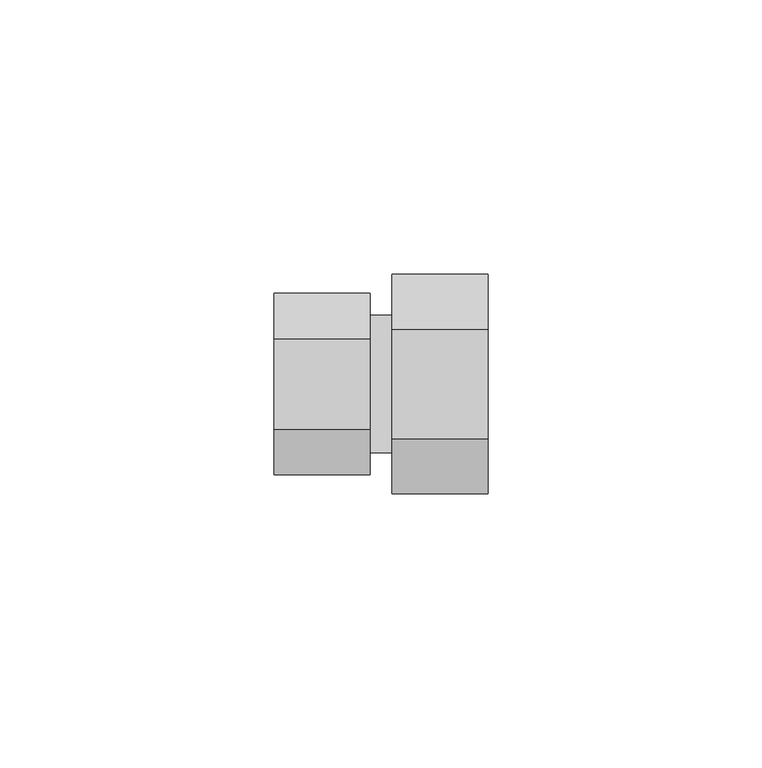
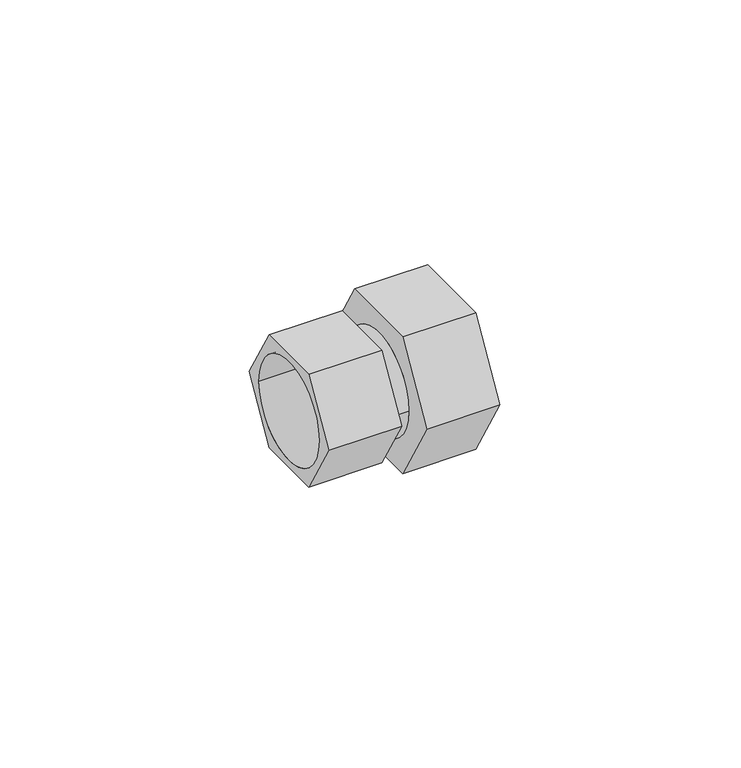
"""IFC4 building model written with IfcOpenShell, lengths in millimetres: pipe fitting geometry, БИР ПЕКС_КМП_Соединитель_Резьба_Внутренняя : Соединитель прямой с внутренней резьбой_КМП."""

from ifc_helpers import new_model, si_unit, point, frame, origin, origin_2d, place, context, project, spatial, polyline, circle_curve, trimmed, segment, composite_curve, outline, extrude, source, transform, mapped, element, save


def pipe_fitting_7a30f251(model_context):
    return source(origin(), model_context, "Body", "SweptSolid", [
        extrude(outline(polyline([(-8.25, -14.2894192), (-16.5, 0.0), (-8.25, 14.2894192), (8.25, 14.2894192), (16.5, 0.0), (8.25, -14.2894192), (-8.25, -14.2894192)]), holes=[composite_curve([segment(trimmed(circle_curve(origin_2d(), 12.5), [point((-12.5, 0.0))], [point((12.5, 0.0))], True, "CARTESIAN"), True, "CONTINUOUS"), segment(trimmed(circle_curve(origin_2d(), 12.5), [point((12.5, 0.0))], [point((-12.5, 0.0))], True, "CARTESIAN"), True, "CONTINUOUS")], self_intersect=False)]), frame((-21.5, 0.0, 0.0), z_axis=(1.0, 0.0, 0.0), x_axis=(0.0, 1.0, 0.0)), (0.0, 0.0, 1.0), 17.5),
        extrude(outline(polyline([(-10.0, -17.3205081), (-20.0, 0.0), (-10.0, 17.3205081), (10.0, 17.3205081), (20.0, 0.0), (10.0, -17.3205081), (-10.0, -17.3205081)]), holes=[composite_curve([segment(trimmed(circle_curve(origin_2d(), 12.5), [point((-12.5, 0.0))], [point((12.5, 0.0))], True, "CARTESIAN"), True, "CONTINUOUS"), segment(trimmed(circle_curve(origin_2d(), 12.5), [point((12.5, 0.0))], [point((-12.5, 0.0))], True, "CARTESIAN"), True, "CONTINUOUS")], self_intersect=False)]), frame((0.0, 0.0, 0.0), z_axis=(1.0, 0.0, 0.0), x_axis=(0.0, 1.0, 0.0)), (0.0, 0.0, 1.0), 17.5),
        extrude(outline(composite_curve([segment(trimmed(circle_curve(origin_2d(), 12.5), [point((-12.5, 0.0))], [point((12.5, 0.0))], False, "CARTESIAN"), True, "CONTINUOUS"), segment(trimmed(circle_curve(origin_2d(), 12.5), [point((12.5, 0.0))], [point((-12.5, 0.0))], False, "CARTESIAN"), True, "CONTINUOUS")], self_intersect=False)), frame((-4.0, 0.0, 0.0), z_axis=(1.0, 0.0, 0.0), x_axis=(0.0, 1.0, 0.0)), (0.0, 0.0, 1.0), 4.0),
    ])


if __name__ == "__main__":
    model = new_model("IFC4")
    model_context = context("Model", 3, world=origin())
    ifc_project = project(units=[si_unit("LENGTHUNIT", "METRE", prefix="MILLI")], contexts=[model_context])
    site = spatial("IfcSite", under=ifc_project)
    building = spatial("IfcBuilding", under=site)
    placement = place(None, origin())
    pipe_fitting_shape = pipe_fitting_7a30f251(model_context)
    element("IfcPipeFitting", 1, ObjectType="БИР ПЕКС_КМП_Соединитель_Резьба_Внутренняя : Соединитель прямой с внутренней резьбой_КМП", at=placement, inside=building, context=model_context, shape_type="MappedRepresentation", body=[
        mapped(pipe_fitting_shape, transform((0.0, 0.0, 0.0), x_axis=(1.0, 0.0, 0.0), y_axis=(0.0, 1.0, 0.0), z_axis=(0.0, 0.0, 1.0))),
    ])
    save(model, "model.ifc")
